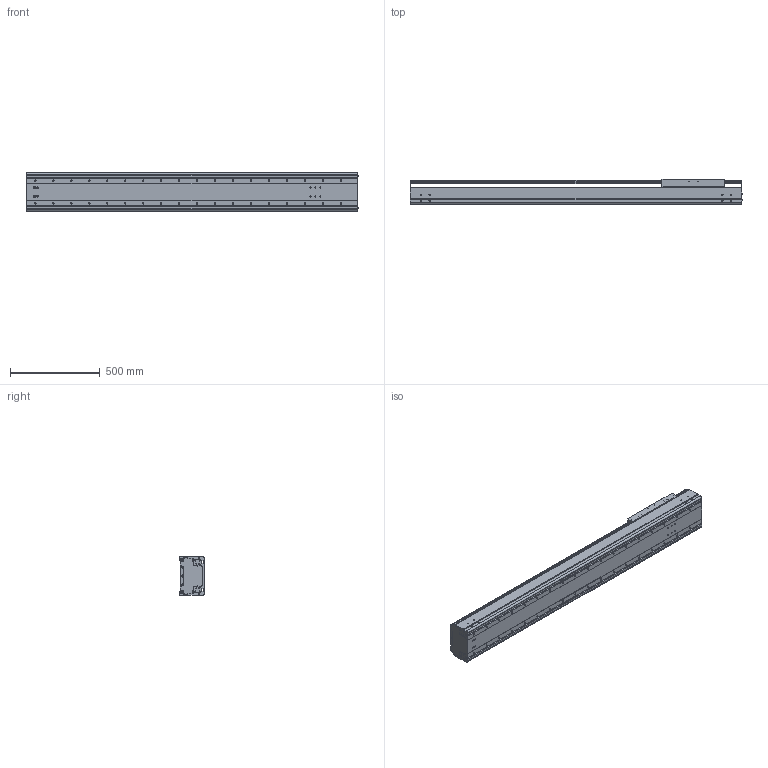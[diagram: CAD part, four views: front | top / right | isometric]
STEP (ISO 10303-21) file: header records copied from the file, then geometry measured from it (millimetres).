
FILE_DESCRIPTION((''),'2;1');
FILE_NAME('BE60G-ST-L_B-D5_IGS_PRT','2017-06-18T',(' '),(''),'PRO/ENGINEER BY PARAMETRIC TECHNOLOGY CORPORATION, 2015030','PRO/ENGINEER BY PARAMETRIC TECHNOLOGY CORPORATION, 2015030','');
FILE_SCHEMA(('CONFIG_CONTROL_DESIGN'));
Products named in the file (1): BE60G-ST-L_B-D5_IGS_PRT
Bounding box: 1847.4 x 140 x 214 mm (x, y, z)
Volume: 14895215.2 mm3; surface area: 3925041.8 mm2
Topology: 2 solids, 168 shells, 1722 faces, 4833 edges, 3175 vertices
Faces by surface type: cylinder 904, plane 638, cone 132, sphere 24, torus 24
Entity records: 57799 total; most frequent: CARTESIAN_POINT 13358, DIRECTION 9320, ORIENTED_EDGE 8746, EDGE_CURVE 4701, AXIS2_PLACEMENT_3D 3501, VERTEX_POINT 3173, VECTOR 2318, LINE 2318
